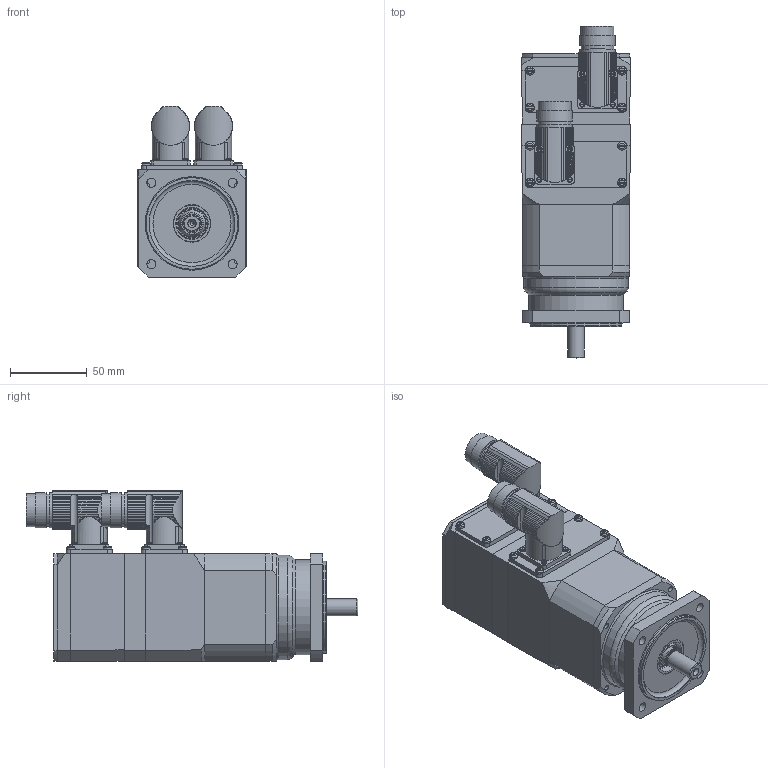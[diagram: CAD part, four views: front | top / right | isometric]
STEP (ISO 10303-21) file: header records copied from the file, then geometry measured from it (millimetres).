
FILE_DESCRIPTION(/* description */ (''),/* implementation_level */ '2;1');
FILE_NAME(/* name */ 'KSY 264 D-MD-R4',/* time_stamp */ '2006-12-14T16:27:48+01:00',/* author */ (''),/* organization */ (''),/* preprocessor_version */ 'ST-DEVELOPER v8',/* originating_system */ 'UNIGRAPHICS SOLUTIONS - UNIGRAPHICS 18.0',/* authorisation */ '');
FILE_SCHEMA (('AUTOMOTIVE_DESIGN { 1 2 10303 214 0 1 1 1 }'));
Length unit declared in the file: millimetre
Products named in the file (15): 064204X_0; iso2009-m3x8_A; 064214_2; 064245Z_0; Gehaeuse_SY2_40_0; Rotor_SY2_0; din920-m2.5x6_A; iso1580-m3x10_A; 014257_0; 014250_0; 112049Z_1; DIN3760_org_A12x24x7_0; 112050Z_1; 064204Z_0; KSY264D-MD-R4_neu_0
Assembly tree (32 placements, depth 3):
  KSY264D-MD-R4_neu_0
    112050Z_1
    DIN3760_org_A12x24x7_0
    112049Z_1
    064204Z_0  x2
      064204X_0
    014250_0
    014257_0
    iso1580-m3x10_A  x8
    din920-m2.5x6_A  x8
    Rotor_SY2_0
    Gehaeuse_SY2_40_0
    064245Z_0
    064214_2
    iso2009-m3x8_A  x4
Bounding box: 70.75 x 216.4 x 111.74 mm (x, y, z)
Volume: 392412.6 mm3; surface area: 183986.6 mm2
Topology: 33 solids, 33 shells, 1340 faces, 3544 edges, 2296 vertices
Faces by surface type: cylinder 636, plane 414, cone 138, bspline 66, torus 62, sphere 24
Full cylindrical faces by diameter (mm): 1 x16, 2 x4, 2.135 x8, 2.387 x8, 2.4 x6, 2.459 x20, 2.5 x9, 2.7 x8, 3 x12, 3.3 x3, 3.432 x7, 3.5 x29, 6 x12, 6.5 x3, 8 x4, 10.6 x1, 11 x2, 12 x2, 12.3 x1, 14 x1, 15.02 x1, 16 x1, 18 x4, 20 x6, 21 x3, 21.5 x2, 22 x1, 23 x5, 24 x2, 26 x1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
Entity records: 35452 total; most frequent: CARTESIAN_POINT 9380, DIRECTION 5204, ORIENTED_EDGE 5110, EDGE_CURVE 2555, AXIS2_PLACEMENT_3D 2175, VERTEX_POINT 1805, EDGE_LOOP 1543, ADVANCED_FACE 1090
